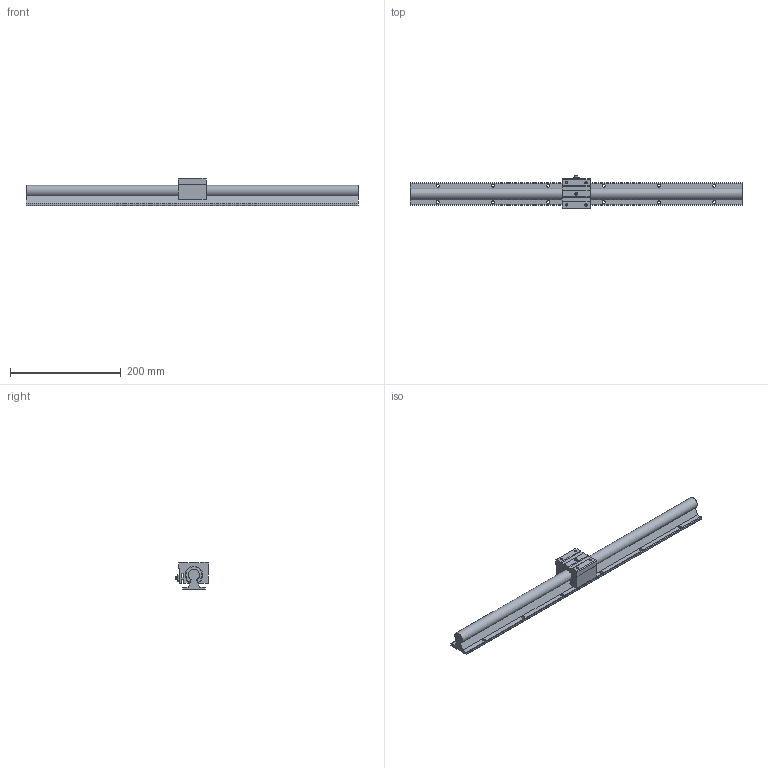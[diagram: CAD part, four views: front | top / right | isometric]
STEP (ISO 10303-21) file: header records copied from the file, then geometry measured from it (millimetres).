
FILE_DESCRIPTION((''),'2;1');
FILE_NAME('D:\製品 (図面)\カタログ用3D\リニアガイド関連\STEP形式\GTA(W)\GTAW20.stp','2010-06-08T09:18:02',('Tsuchiya'),(''),'Autodesk Inventor 10','Autodesk Inventor 10','');
FILE_SCHEMA(('AUTOMOTIVE_DESIGN { 1 0 10303 214 1 1 1 1 }'));
Length unit declared in the file: millimetre
Products named in the file (3): GTAW20; GTAW201; GTAW202
Assembly tree (2 placements, depth 2):
  GTAW20
    GTAW201
    GTAW202
Bounding box: 600 x 61 x 50 mm (x, y, z)
Volume: 488892.2 mm3; surface area: 112337.7 mm2
Topology: 2 solids, 2 shells, 203 faces, 538 edges, 350 vertices
Faces by surface type: plane 116, cylinder 48, cone 21, bspline 10, torus 8
Full cylindrical faces by diameter (mm): 5.5 x12, 6 x2, 8.5 x6, 8.9 x6
Entity records: 5925 total; most frequent: CARTESIAN_POINT 1288, ORIENTED_EDGE 918, DIRECTION 914, EDGE_CURVE 459, AXIS2_PLACEMENT_3D 329, VERTEX_POINT 321, EDGE_LOOP 294, VECTOR 256
